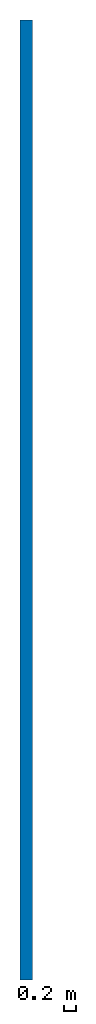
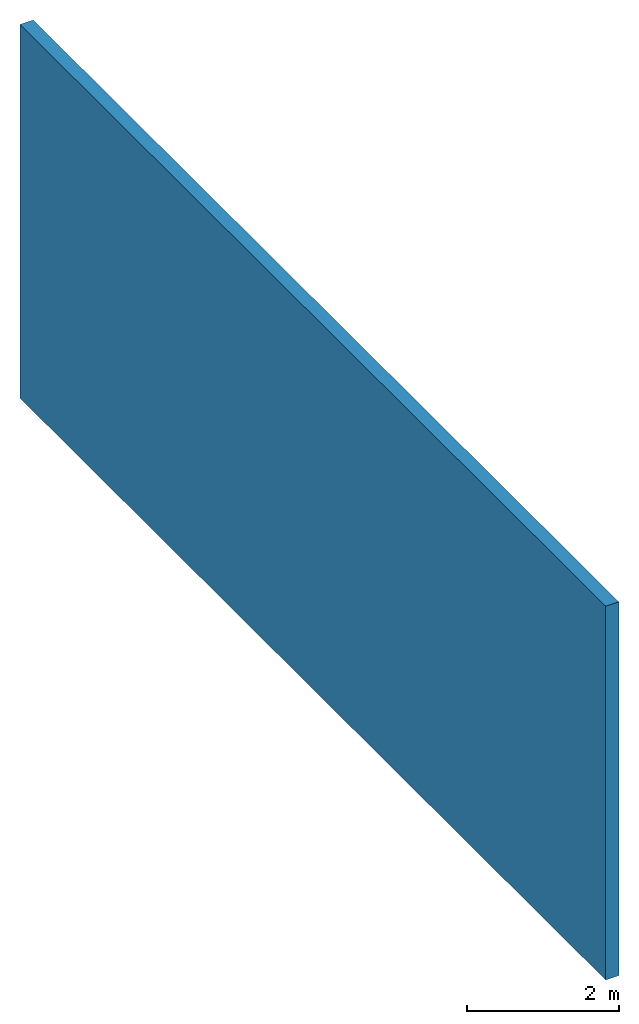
# One storey: 1 wall.
"""IFC2X3 building model written with IfcOpenShell, lengths in metres."""

from ifc_helpers import new_model, entity, si_unit, converted_unit, derived_unit, direction, frame, frame_2d, origin, place, context, subcontext, project, spatial, rectangle, extrude, material, layer, layer_set, layer_usage, type_object, element, save


model = new_model("IFC2X3")

# Units and contexts
model_context = context("Model", 3, precision=1e-05, world=origin(), true_north=direction((6.12303176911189e-17, 1.0)))
body_context = subcontext(model_context, "Body", "Model", "MODEL_VIEW")
ifc_project = project(units=[si_unit("LENGTHUNIT", "METRE"), si_unit("AREAUNIT", "SQUARE_METRE"), si_unit("VOLUMEUNIT", "CUBIC_METRE"), converted_unit("PLANEANGLEUNIT", "DEGREE", entity("IfcRatioMeasure", 0.0174532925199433), si_unit("PLANEANGLEUNIT", "RADIAN"), dimensions=[0, 0, 0, 0, 0, 0, 0]), si_unit("MASSUNIT", "GRAM", prefix="KILO"), derived_unit("MASSDENSITYUNIT", [(si_unit("MASSUNIT", "GRAM", prefix="KILO"), 1), (si_unit("LENGTHUNIT", "METRE"), -3)]), derived_unit("MOMENTOFINERTIAUNIT", [(si_unit("LENGTHUNIT", "METRE"), 4)]), si_unit("TIMEUNIT", "SECOND"), si_unit("FREQUENCYUNIT", "HERTZ"), si_unit("THERMODYNAMICTEMPERATUREUNIT", "DEGREE_CELSIUS"), derived_unit("THERMALTRANSMITTANCEUNIT", [(si_unit("MASSUNIT", "GRAM", prefix="KILO"), 1), (si_unit("THERMODYNAMICTEMPERATUREUNIT", "KELVIN"), -1), (si_unit("TIMEUNIT", "SECOND"), -3)]), derived_unit("VOLUMETRICFLOWRATEUNIT", [(si_unit("LENGTHUNIT", "METRE"), 3), (si_unit("TIMEUNIT", "SECOND"), -1)]), si_unit("ELECTRICCURRENTUNIT", "AMPERE"), si_unit("ELECTRICVOLTAGEUNIT", "VOLT"), si_unit("POWERUNIT", "WATT"), si_unit("FORCEUNIT", "NEWTON", prefix="KILO"), si_unit("ILLUMINANCEUNIT", "LUX"), si_unit("LUMINOUSFLUXUNIT", "LUMEN"), si_unit("LUMINOUSINTENSITYUNIT", "CANDELA"), derived_unit("USERDEFINED", [(si_unit("MASSUNIT", "GRAM", prefix="KILO"), -1), (si_unit("LENGTHUNIT", "METRE"), -2), (si_unit("TIMEUNIT", "SECOND"), 3), (si_unit("LUMINOUSFLUXUNIT", "LUMEN"), 1)]), derived_unit("LINEARVELOCITYUNIT", [(si_unit("LENGTHUNIT", "METRE"), 1), (si_unit("TIMEUNIT", "SECOND"), -1)]), si_unit("PRESSUREUNIT", "PASCAL"), derived_unit("USERDEFINED", [(si_unit("LENGTHUNIT", "METRE"), -2), (si_unit("MASSUNIT", "GRAM", prefix="KILO"), 1), (si_unit("TIMEUNIT", "SECOND"), -2)]), derived_unit("LINEARFORCEUNIT", [(si_unit("MASSUNIT", "GRAM", prefix="KILO"), 1), (si_unit("LENGTHUNIT", "METRE"), 1), (si_unit("TIMEUNIT", "SECOND"), -2), (si_unit("LENGTHUNIT", "METRE"), -1)]), derived_unit("PLANARFORCEUNIT", [(si_unit("MASSUNIT", "GRAM", prefix="KILO"), 1), (si_unit("LENGTHUNIT", "METRE"), 1), (si_unit("TIMEUNIT", "SECOND"), -2), (si_unit("LENGTHUNIT", "METRE"), -2)])], contexts=[model_context])

# Site, building, storey
site_placement = place(None, frame((0.0, 0.0, 57.0)))
site = spatial("IfcSite", under=ifc_project, at=site_placement, Name="Default", CompositionType="ELEMENT")
building_placement = place(site_placement, origin())
building = spatial("IfcBuilding", under=site, at=building_placement, CompositionType="ELEMENT")
storey_placement = place(building_placement, frame((0.0, 0.0, 1.0)))
storey = spatial("IfcBuildingStorey", under=building, at=storey_placement, Name="Level 1", CompositionType="ELEMENT", Elevation=1.0)

# Wall
ifc_material = material(Name="Default Wall")
ifc_layer = layer(ifc_material, 0.2)
ifc_layer_set = layer_set([ifc_layer], Name="Basic Wall:Generic - 200mm")
ifc_layer_usage = layer_usage(ifc_layer_set, "AXIS2", "NEGATIVE", 0.1)
wall_type = type_object("IfcWallType", Name="Basic Wall:Generic - 200mm", PredefinedType="STANDARD", material=ifc_layer_set)
wall_placement = place(storey_placement, frame((13.1200731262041, 12.4893022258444, 0.0), z_axis=(0.0, 0.0, 1.0), x_axis=(0.0, -1.0, 0.0)))
element("IfcWallStandardCase", 1, at=wall_placement, inside=storey, type_object=wall_type, material=ifc_layer_usage, Name="Basic Wall:Generic - 200mm", ObjectType="Basic Wall:Generic - 200mm", context=body_context, shape_type="SweptSolid", body=[
    extrude(rectangle(XDim=15.4, YDim=0.200000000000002, at=frame_2d((7.7, 7.0082828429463e-16), x_axis=(-1.0, 0.0))), origin(), (0.0, 0.0, 1.0), 6.0),
])

save(model, "model.ifc")
